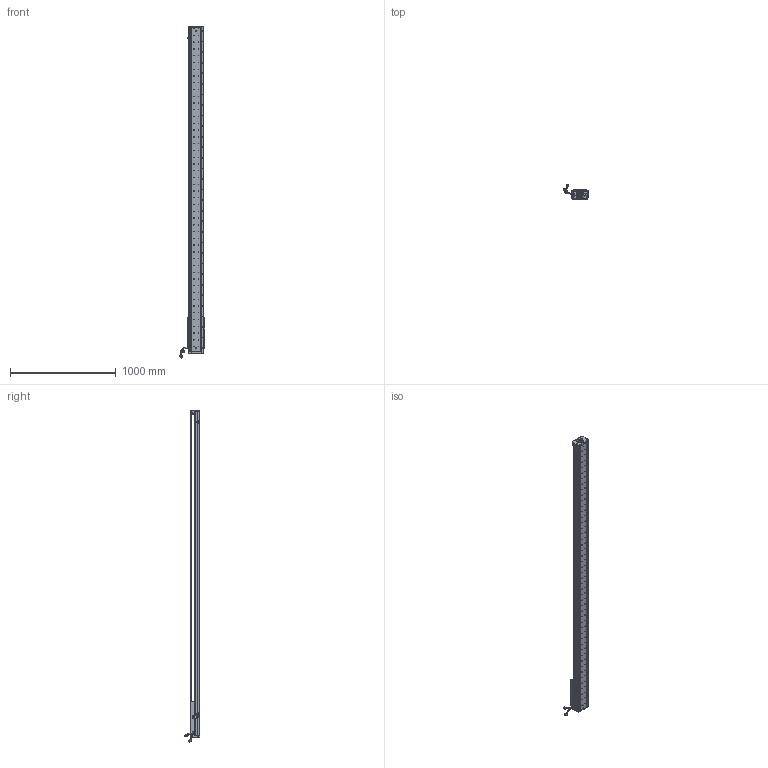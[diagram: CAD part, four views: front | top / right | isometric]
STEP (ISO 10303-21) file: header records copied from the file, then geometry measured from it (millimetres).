
FILE_DESCRIPTION (( 'STEP AP203' ), '1' );
FILE_NAME ('Z4-RY140D-1-L500-B-K.SLDASM_2700.step', '2021-05-17T08:20:59', ( '盈信电脑' ), ( '东莞市道滘镇水果街19号' ), 'SwSTEP 2.0', 'SolidWorks 2016', '' );
FILE_SCHEMA (( 'CONFIG_CONTROL_DESIGN' ));
Length unit declared in the file: millimetre
Products named in the file (36): 覜茼ん672; 詩湍奻揤裔; HOLDER0; SCALE-Part-2; 140雄赽晤鎢ん堤盄; Z-140詩湍傷裔啣; PBU_SHEET; Z4-RY140圉猾敕臏賑輸(21遴); 詩湍狟揤裔; SCREW-M1.6-1; SCALE-Part-1; HARNESS-Part-2; 140-Z-臏賑輸盄裔(21遴); SCREW-M1.6-2; 080黍杅芛假蚾釱21遴; SCALE; Z4-RY140-L500直线电机模组底座_2700; SCREW-M1.7-1; Z-RY140感应器672光电感应片; SCREW-M1.6-3; COVER-Part-1; SHIELDPLATE; PSLH080_PSLF2; SEAL; Z4-RY140-L500詩湍100mm遵_2700; 140蚥薯蝶輸; SCREW-M1.6; COVER; SEAL-Part-1; HARNESS-Part-1; LABEL; Z4-RY140D-1-L500-B-K.SLDASM_2700; LABEL-Part-1; SCREW-M1.7; 榋妏寠巭燃_暯_M2_2; HARNESS
Assembly tree (41 placements, depth 4):
  Z4-RY140D-1-L500-B-K.SLDASM_2700
    Z4-RY140-L500直线电机模组底座_2700
    Z-RY140感应器672光电感应片
    Z4-RY140圉猾敕臏賑輸(21遴)
    覜茼ん672  x3
    Z4-RY140-L500詩湍100mm遵_2700
    PSLH080_PSLF2
      SCALE
        SCALE-Part-1
        SCALE-Part-2
      HARNESS
        HARNESS-Part-1
        HARNESS-Part-2
      LABEL
        LABEL-Part-1
      COVER
        COVER-Part-1
      SEAL
        SEAL-Part-1
      榋妏寠巭燃_暯_M2_2
      SHIELDPLATE
      SCREW-M1.7
      SCREW-M1.7-1
      PBU_SHEET
      SCREW-M1.6
      SCREW-M1.6-1
      SCREW-M1.6-2
      SCREW-M1.6-3
      HOLDER0
    080黍杅芛假蚾釱21遴
    140-Z-臏賑輸盄裔(21遴)
    Z-140詩湍傷裔啣  x2
    詩湍狟揤裔  x2
    詩湍奻揤裔  x2
    140蚥薯蝶輸  x2
    140雄赽晤鎢ん堤盄
Bounding box: 239.79 x 143.88 x 3140.87 mm (x, y, z)
Volume: 10087196.7 mm3; surface area: 2611752.9 mm2
Topology: 36 solids, 36 shells, 4500 faces, 12318 edges, 7803 vertices
Faces by surface type: cylinder 2500, plane 1440, cone 438, torus 69, bspline 53
Entity records: 145038 total; most frequent: CARTESIAN_POINT 41773, ORIENTED_EDGE 21484, DIRECTION 19650, EDGE_CURVE 10742, AXIS2_PLACEMENT_3D 7328, VERTEX_POINT 6971, LINE 4994, VECTOR 4994
